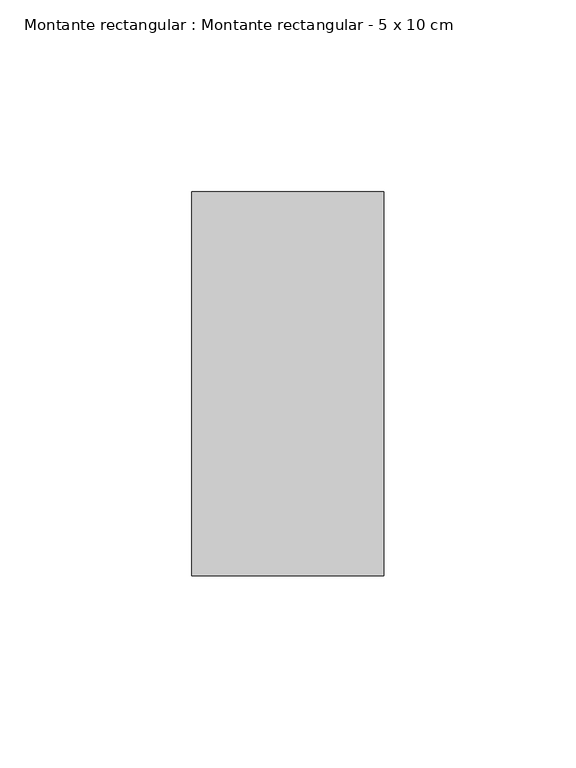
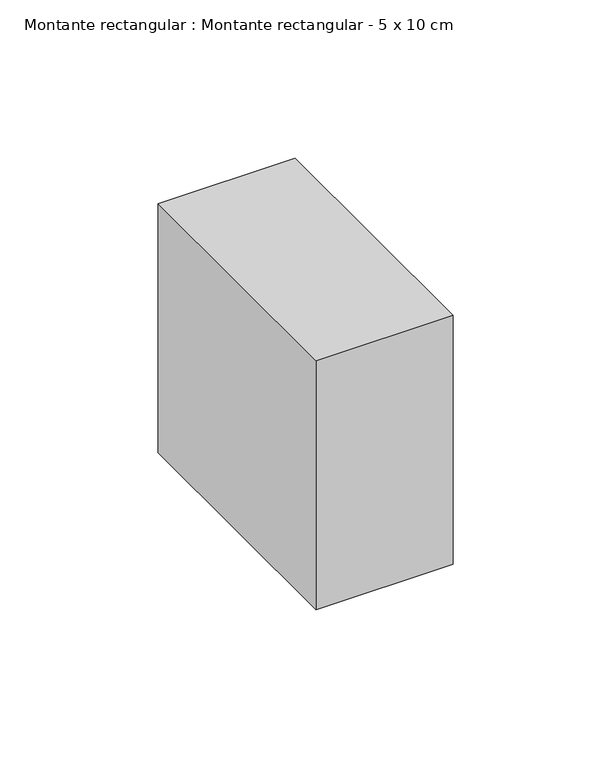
"""IFC4 building model written with IfcOpenShell, lengths in millimetres: member geometry, Montante rectangular : Montante rectangular - 5 x 10 cm."""

from ifc_helpers import new_model, si_unit, frame, origin, place, context, project, spatial, polyline, outline, extrude, source, transform, mapped, element, save


def montante_rectangular_montante_rectangular_5_x_10_cm_98fa7ddb(model_context):
    return source(origin(), model_context, "Body", "SweptSolid", [
        extrude(outline(polyline([(25.0, 50.0), (25.0, -50.0), (-25.0, -50.0), (-25.0, 50.0), (25.0, 50.0)])), frame((0.0, 0.0, -96.1603928), z_axis=(0.0, 0.0, 1.0), x_axis=(1.0, 0.0, 0.0)), (0.0, 0.0, 1.0), 96.1603928),
    ])


if __name__ == "__main__":
    model = new_model("IFC4")
    model_context = context("Model", 3, world=origin())
    ifc_project = project(units=[si_unit("LENGTHUNIT", "METRE", prefix="MILLI")], contexts=[model_context])
    site = spatial("IfcSite", under=ifc_project)
    building = spatial("IfcBuilding", under=site)
    placement = place(None, origin())
    montante_rectangular_montante_rectangular_5_x_10_cm_shape = montante_rectangular_montante_rectangular_5_x_10_cm_98fa7ddb(model_context)
    element("IfcMember", 1, ObjectType="Montante rectangular : Montante rectangular - 5 x 10 cm", at=placement, inside=building, context=model_context, shape_type="MappedRepresentation", body=[
        mapped(montante_rectangular_montante_rectangular_5_x_10_cm_shape, transform((0.0, 0.0, 0.0), x_axis=(1.0, 0.0, 0.0), y_axis=(0.0, 1.0, 0.0), z_axis=(0.0, 0.0, 1.0))),
    ])
    save(model, "model.ifc")
